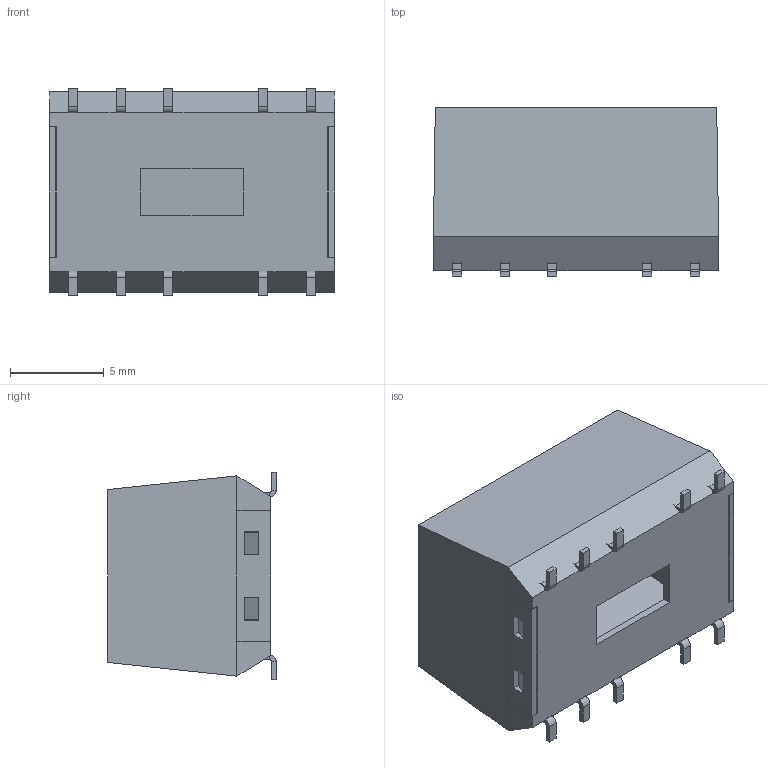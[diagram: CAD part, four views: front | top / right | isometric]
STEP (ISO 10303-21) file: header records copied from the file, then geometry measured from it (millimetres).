
FILE_DESCRIPTION(('FreeCAD Model'),'2;1');
FILE_NAME('X:/Application Engineering/4 Documentation/3 Users/1 MaS/3D Projekt/R2S12_3D_20190722.step','2019-07-22T13:44:40',(''),(''), 'Open CASCADE STEP processor 7.3','FreeCAD','Unknown');
FILE_SCHEMA(('CONFIG_CONTROL_DESIGN','SHAPE_APPEARANCE_LAYER_MIM'));
Length unit declared in the file: millimetre
Products named in the file (12): R2S12_pin2(+Vin); R2S12_pin1(-Vin); R2S12_pin3(NC); R2S12_bottom_case; R2S12_pin8(+Vout); R2S12_pin10(NC); R2S12_pin7(NC); R2S12_pin11(NC); R2S12_pin5(-Vout); R2S12_pin12(NC); R2S12_pin6(NC); R2S12_case
Bounding box: 15.25 x 9 x 11.1 mm (x, y, z)
Volume: 278.1 mm3; surface area: 1493.1 mm2
Topology: 12 solids, 12 shells, 474 faces, 1229 edges, 786 vertices
Faces by surface type: plane 372, cylinder 102
Entity records: 31781 total; most frequent: CARTESIAN_POINT 5260, DIRECTION 4789, LINE 3279, VECTOR 3279, ORIENTED_EDGE 2458, PCURVE 2458, DEFINITIONAL_REPRESENTATION 2458, EDGE_CURVE 1229
